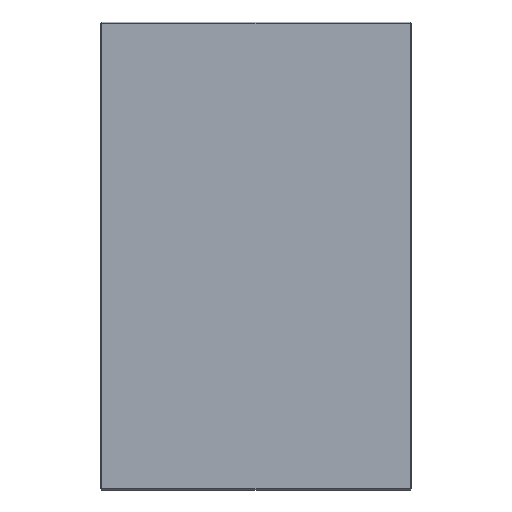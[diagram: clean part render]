
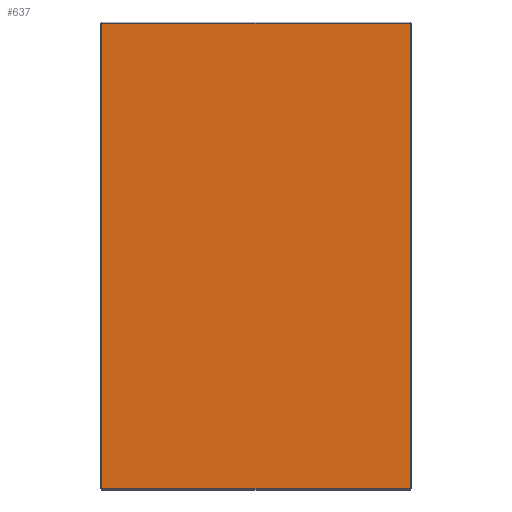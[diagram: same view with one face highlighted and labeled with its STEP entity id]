
A CAD part, front view. The second image highlights one B-rep face of the part: STEP entity #637.
In plain terms, the highlighted planar face has unit normal (0, -1, 0).
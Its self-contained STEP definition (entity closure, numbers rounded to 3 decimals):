
#21 = CARTESIAN_POINT ( 'NONE',  ( -147., 0., -222. ) ) ;
#22 = DIRECTION ( 'NONE',  ( 1., 0., 0. ) ) ;
#25 = VERTEX_POINT ( 'NONE', #87 ) ;
#31 = PLANE ( 'NONE',  #85 ) ;
#53 = ORIENTED_EDGE ( 'NONE', *, *, #456, .T. ) ;
#85 = AXIS2_PLACEMENT_3D ( 'NONE', #340, #89, #94 ) ;
#87 = CARTESIAN_POINT ( 'NONE',  ( 147., 0., -222. ) ) ;
#89 = DIRECTION ( 'NONE',  ( 0., 1., 0. ) ) ;
#94 = DIRECTION ( 'NONE',  ( 0., 0., 1. ) ) ;
#134 = ORIENTED_EDGE ( 'NONE', *, *, #345, .T. ) ;
#146 = VECTOR ( 'NONE', #505, 1000. ) ;
#149 = VECTOR ( 'NONE', #425, 1000. ) ;
#185 = CARTESIAN_POINT ( 'NONE',  ( -147., 0., 222. ) ) ;
#211 = ORIENTED_EDGE ( 'NONE', *, *, #413, .T. ) ;
#219 = FACE_OUTER_BOUND ( 'NONE', #640, .T. ) ;
#275 = VERTEX_POINT ( 'NONE', #21 ) ;
#279 = LINE ( 'NONE', #509, #146 ) ;
#290 = DIRECTION ( 'NONE',  ( -1., 0., 0. ) ) ;
#316 = VECTOR ( 'NONE', #290, 1000. ) ;
#340 = CARTESIAN_POINT ( 'NONE',  ( 0., 0., 0. ) ) ;
#345 = EDGE_CURVE ( 'NONE', #542, #350, #556, .T. ) ;
#350 = VERTEX_POINT ( 'NONE', #185 ) ;
#392 = LINE ( 'NONE', #503, #149 ) ;
#413 = EDGE_CURVE ( 'NONE', #25, #542, #392, .T. ) ;
#425 = DIRECTION ( 'NONE',  ( 0., 0., 1. ) ) ;
#441 = CARTESIAN_POINT ( 'NONE',  ( 0., 0., 222. ) ) ;
#446 = VECTOR ( 'NONE', #22, 1000. ) ;
#456 = EDGE_CURVE ( 'NONE', #275, #25, #593, .T. ) ;
#462 = EDGE_CURVE ( 'NONE', #350, #275, #279, .T. ) ;
#503 = CARTESIAN_POINT ( 'NONE',  ( 147., 0., 0. ) ) ;
#505 = DIRECTION ( 'NONE',  ( 0., 0., -1. ) ) ;
#509 = CARTESIAN_POINT ( 'NONE',  ( -147., 0., 0. ) ) ;
#542 = VERTEX_POINT ( 'NONE', #612 ) ;
#556 = LINE ( 'NONE', #441, #316 ) ;
#558 = ORIENTED_EDGE ( 'NONE', *, *, #462, .T. ) ;
#569 = CARTESIAN_POINT ( 'NONE',  ( 0., 0., -222. ) ) ;
#593 = LINE ( 'NONE', #569, #446 ) ;
#612 = CARTESIAN_POINT ( 'NONE',  ( 147., 0., 222. ) ) ;
#637 = ADVANCED_FACE ( 'NONE', ( #219 ), #31, .F. ) ;
#640 = EDGE_LOOP ( 'NONE', ( #211, #134, #558, #53 ) ) ;
